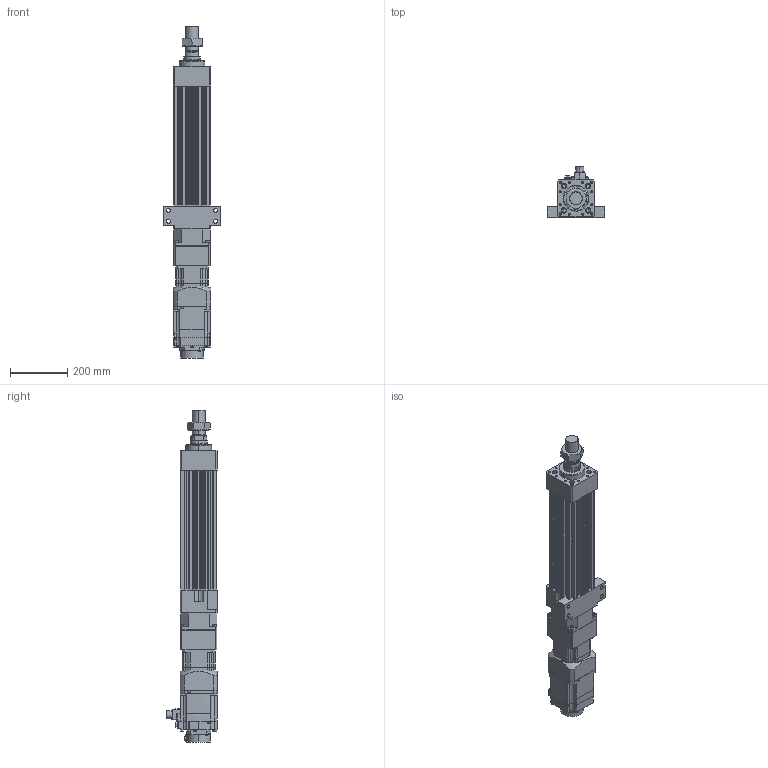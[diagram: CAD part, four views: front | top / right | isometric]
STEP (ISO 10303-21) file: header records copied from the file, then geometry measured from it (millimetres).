
FILE_DESCRIPTION (( 'STEP AP203' ), '1' );
FILE_NAME ('HES130NS(FS)(HS)-S200-W015G00-M-FFC.STEP', '2026-06-10T06:17:53', ( 'tms' ), ( '' ), 'SwSTEP 2.0', 'SolidWorks 2013', '' );
FILE_SCHEMA (( 'CONFIG_CONTROL_DESIGN' ));
Length unit declared in the file: millimetre
Products named in the file (8): HES130-S-G120; HES130NS(FS)(HS)-S200-W015G00-M-FFC; AB1152; HES130-M-ROD-200; M45X1.5P; HG-SR152B; AB1151; HES130-FFC-200
Assembly tree (7 placements, depth 2):
  HES130NS(FS)(HS)-S200-W015G00-M-FFC
    HES130-FFC-200
    HES130-M-ROD-200
    M45X1.5P
    HES130-S-G120
    AB1151
    AB1152
    HG-SR152B
Bounding box: 200 x 177.49 x 1162 mm (x, y, z)
Volume: 9271038 mm3; surface area: 1136167.8 mm2
Topology: 5 solids, 12 shells, 1284 faces, 3254 edges, 2103 vertices
Faces by surface type: cylinder 588, plane 584, cone 98, bspline 10, torus 4
Entity records: 40475 total; most frequent: CARTESIAN_POINT 7740, DIRECTION 7007, ORIENTED_EDGE 6432, EDGE_CURVE 3226, AXIS2_PLACEMENT_3D 2591, VERTEX_POINT 2103, VECTOR 1825, LINE 1825
